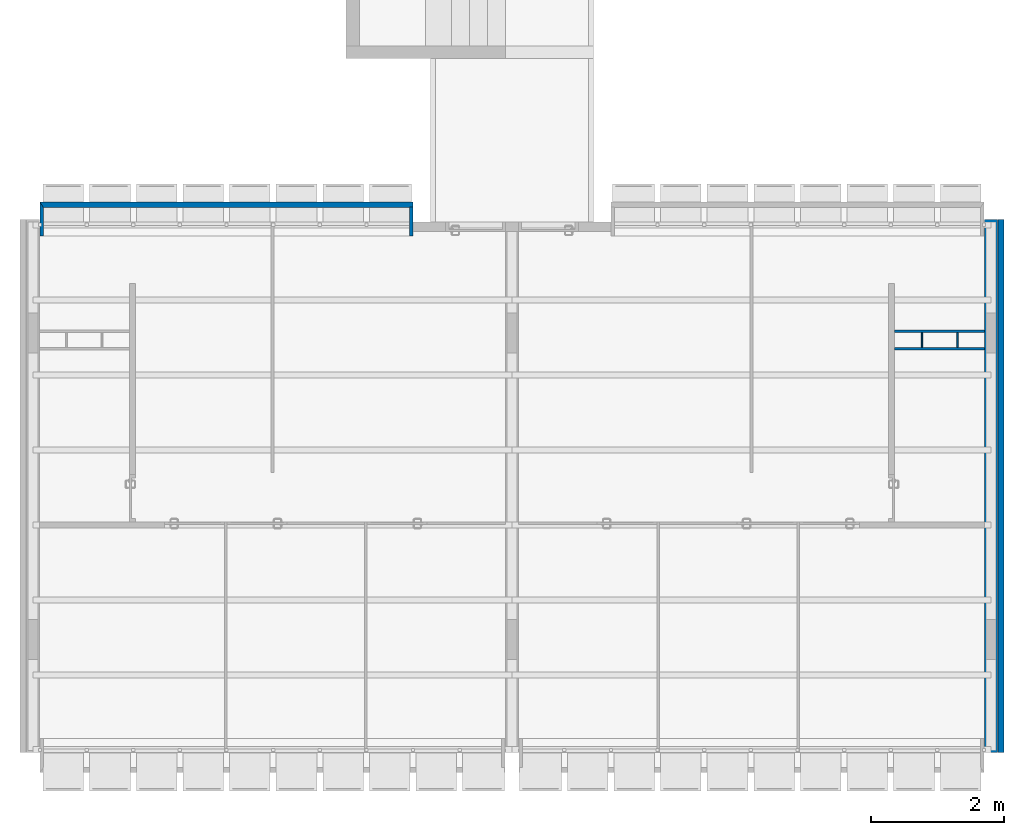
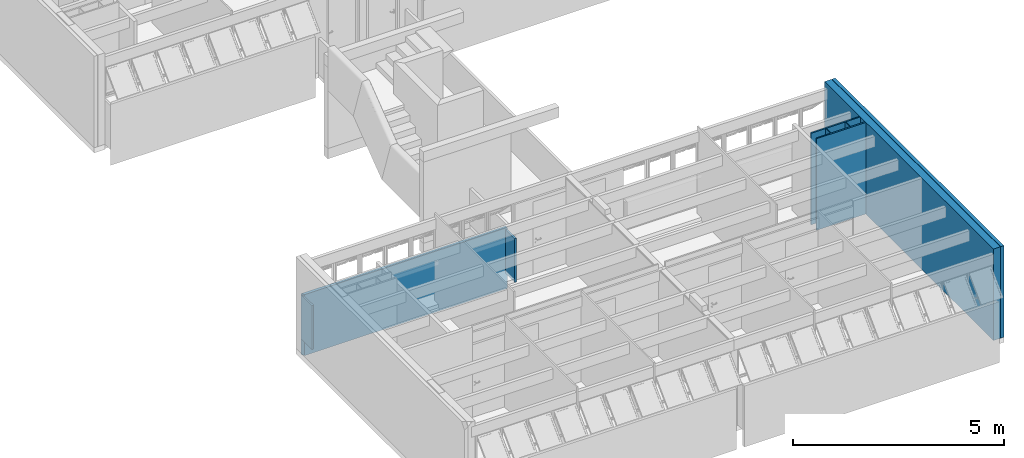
# One storey, part 26 of 40: 9 walls.
"""IFC4 building model written with IfcOpenShell, lengths in millimetres."""

import ifcopenshell
import ifcopenshell.guid

model = None  # the IFC model being written
_history = None  # IfcOwnerHistory: only IFC2X3 demands one
_inside = {}  # id of a spatial element -> (the spatial element, [elements in it])
_under = {}  # id of a project, library or spatial element -> (it, [spatial elements below it])
_declared = {}  # id of a project -> (the project, [libraries it declares])
_typed = {}  # id of a type object -> (the type object, [elements of that type])
_made_of = {}  # id of a material, layer set ... -> (it, [elements and type objects made of it])


def new_model(schema):
    """Start an empty IFC model of exactly this schema.

    Asked for "IFC4X3", IfcOpenShell would pick the latest addendum, in which some entities
    have other attributes; the version numbers below select the first issue.
    IFC2X3 requires an IfcOwnerHistory on every rooted entity: one is made here for all.
    """
    global model, _history
    if schema == "IFC4X3":
        model = ifcopenshell.file(schema_version=(4, 3, 0, 0))
    else:
        model = ifcopenshell.file(schema=schema)
    _inside.clear()
    _under.clear()
    _declared.clear()
    _typed.clear()
    _made_of.clear()
    _history = None
    if model.schema == "IFC2X3":
        org = make("IfcOrganization", Name="unknown")
        user = make(
            "IfcPersonAndOrganization",
            ThePerson=make("IfcPerson", FamilyName="unknown"),
            TheOrganization=org,
        )
        app = make(
            "IfcApplication",
            ApplicationDeveloper=org,
            Version="unknown",
            ApplicationFullName="unknown",
            ApplicationIdentifier="unknown",
        )
        _history = make(
            "IfcOwnerHistory",
            OwningUser=user,
            OwningApplication=app,
            ChangeAction="ADDED",
            CreationDate=0,
        )
    return model


def make(cls, **values):
    """One entity of the class cls with the attributes given. An attribute that is None is left unset."""
    return model.create_entity(
        cls, **{name: value for name, value in values.items() if value is not None}
    )


def entity(cls, *values):
    """Any entity or typed value of the class cls, its attributes in the order of the schema. None: left unset."""
    e = model.create_entity(cls)
    for i, value in enumerate(values):
        if value is not None:
            e[i] = value
    return e


def rooted(cls, **values):
    """An entity with a GlobalId (a new one), such as an element, a storey or a relation."""
    return make(cls, GlobalId=ifcopenshell.guid.new(), OwnerHistory=_history, **values)


def si_unit(unit_type, name, prefix=None):
    """IfcSIUnit, for example si_unit("LENGTHUNIT", "METRE", prefix="MILLI")."""
    return make("IfcSIUnit", UnitType=unit_type, Prefix=prefix, Name=name)


def converted_unit(unit_type, name, factor, base, dimensions=None, offset=None):
    """IfcConversionBasedUnit, such as the inch: factor (a typed value) times the base unit."""
    return make(
        "IfcConversionBasedUnit"
        if offset is None
        else "IfcConversionBasedUnitWithOffset",
        ConversionOffset=offset,
        Dimensions=None
        if dimensions is None
        else entity("IfcDimensionalExponents", *dimensions),
        UnitType=unit_type,
        Name=name,
        ConversionFactor=make(
            "IfcMeasureWithUnit", ValueComponent=factor, UnitComponent=base
        ),
    )


def derived_unit(unit_type, elements):
    """IfcDerivedUnit: a product of units, each with its exponent."""
    return make(
        "IfcDerivedUnit",
        Elements=[
            make("IfcDerivedUnitElement", Unit=unit, Exponent=power)
            for unit, power in elements
        ],
        UnitType=unit_type,
    )


def assignment(units):
    """IfcUnitAssignment: the units of a project."""
    return None if units is None else make("IfcUnitAssignment", Units=units)


def point(xyz):
    """IfcCartesianPoint."""
    return None if xyz is None else make("IfcCartesianPoint", Coordinates=xyz)


def direction(xyz):
    """IfcDirection."""
    return None if xyz is None else make("IfcDirection", DirectionRatios=xyz)


def frame(location, z_axis=None, x_axis=None):
    """IfcAxis2Placement3D, a coordinate frame: its origin and axes. An axis left out is left unset."""
    return make(
        "IfcAxis2Placement3D",
        Location=point(location),
        Axis=direction(z_axis),
        RefDirection=direction(x_axis),
    )


def origin_with_axes():
    """The frame at (0, 0, 0) with the z axis (0, 0, 1) and the x axis (1, 0, 0) written out."""
    return frame((0.0, 0.0, 0.0), z_axis=(0.0, 0.0, 1.0), x_axis=(1.0, 0.0, 0.0))


def place(relative_to, where):
    """IfcLocalPlacement: puts the frame where relative to a parent placement (None: the world)."""
    return make(
        "IfcLocalPlacement", PlacementRelTo=relative_to, RelativePlacement=where
    )


def context(
    kind, dimensions, precision=None, world=None, true_north=None, identifier=None
):
    """IfcGeometricRepresentationContext, for example the 3D "Model" context."""
    return make(
        "IfcGeometricRepresentationContext",
        ContextIdentifier=identifier,
        ContextType=kind,
        CoordinateSpaceDimension=dimensions,
        Precision=precision,
        WorldCoordinateSystem=world,
        TrueNorth=true_north,
    )


def subcontext(parent, identifier, kind, view, scale=None):
    """IfcGeometricRepresentationSubContext, for example "Body" below "Model"."""
    return make(
        "IfcGeometricRepresentationSubContext",
        ContextIdentifier=identifier,
        ContextType=kind,
        ParentContext=parent,
        TargetScale=scale,
        TargetView=view,
    )


def project(units=None, contexts=None):
    """IfcProject with its units and contexts."""
    return rooted(
        "IfcProject",
        Name="project",
        RepresentationContexts=contexts,
        UnitsInContext=assignment(units),
    )


def spatial(cls, under=None, at=None, **own):
    """A site, building, storey or space (cls), placed at a placement, below another one or the project."""
    s = rooted(cls, ObjectPlacement=at, **own)
    if under is not None:
        _under.setdefault(under.id(), (under, []))[1].append(s)
    return s


def point_list(points):
    """IfcCartesianPointList2D or 3D."""
    cls = (
        "IfcCartesianPointList2D" if len(points[0]) == 2 else "IfcCartesianPointList3D"
    )
    return make(cls, CoordList=points)


def line(*indices):
    """IfcLineIndex: a straight run through numbered points of an indexed curve."""
    return model.create_entity("IfcLineIndex", indices)


def indexed_curve(points, segments=None, self_intersect=None):
    """IfcIndexedPolyCurve: lines and arcs through numbered points (the first is 1)."""
    return make(
        "IfcIndexedPolyCurve",
        Points=point_list(points),
        Segments=segments,
        SelfIntersect=self_intersect,
    )


def outline(outer, holes=None, kind="AREA"):
    """IfcArbitraryClosedProfileDef: a profile drawn as a closed curve; with holes, ...WithVoids."""
    if holes is None:
        return make("IfcArbitraryClosedProfileDef", ProfileType=kind, OuterCurve=outer)
    return make(
        "IfcArbitraryProfileDefWithVoids",
        ProfileType=kind,
        OuterCurve=outer,
        InnerCurves=holes,
    )


def extrude(swept, where, along, depth):
    """IfcExtrudedAreaSolid: the profile swept, set in the frame where, extruded along a direction by depth."""
    return make(
        "IfcExtrudedAreaSolid",
        SweptArea=swept,
        Position=where,
        ExtrudedDirection=direction(along),
        Depth=depth,
    )


def shape(context_of_items, identifier, shape_type, items):
    """IfcShapeRepresentation: the items that make up one representation, for example the "Body"."""
    return make(
        "IfcShapeRepresentation",
        ContextOfItems=context_of_items,
        RepresentationIdentifier=identifier,
        RepresentationType=shape_type,
        Items=items,
    )


def material(Name=None, Category=None):
    """IfcMaterial."""
    return make("IfcMaterial", Name=Name, Category=Category)


def layer(
    of_material, thickness, ventilated=None, Name=None, Category=None, Priority=None
):
    """IfcMaterialLayer: one layer of a wall or slab, of a material (None: an air gap)."""
    return make(
        "IfcMaterialLayer",
        Material=of_material,
        LayerThickness=thickness,
        IsVentilated=ventilated,
        Name=Name,
        Category=Category,
        Priority=Priority,
    )


def layer_set(layers, Name=None):
    """IfcMaterialLayerSet."""
    return make("IfcMaterialLayerSet", MaterialLayers=layers, LayerSetName=Name)


def layer_usage(for_layer_set, set_direction, sense, offset, extent=None):
    """IfcMaterialLayerSetUsage: how a layer set lies in its element."""
    return make(
        "IfcMaterialLayerSetUsage",
        ForLayerSet=for_layer_set,
        LayerSetDirection=set_direction,
        DirectionSense=sense,
        OffsetFromReferenceLine=offset,
        ReferenceExtent=extent,
    )


def made_of(thing, what):
    """Note that an element or type object is made of a material, layer set ...; save() writes the relation."""
    if what is not None:
        _made_of.setdefault(what.id(), (what, []))[1].append(thing)
    return thing


def type_object(cls, material=None, **own):
    """A type object (cls), such as IfcWallType, which elements share."""
    return made_of(rooted(cls, **own), material)


def element(
    cls,
    number,
    at=None,
    inside=None,
    cuts=None,
    type_object=None,
    material=None,
    context=None,
    identifier="Body",
    shape_type=None,
    held_by="IfcProductDefinitionShape",
    body=None,
    shapes=None,
    **own,
):
    """One element of the class cls, such as IfcWall. Its Tag is "e" and its number.

    at: its placement. inside: the storey or other place that contains it. cuts: it is an
    opening in that element (IfcRelVoidsElement). A single representation is given by context,
    identifier, shape_type and body (its items); several are given by shapes. held_by: the class
    of the entity that holds the representations. save() writes the other relations.
    """
    e = rooted(cls, Tag="e%d" % number, ObjectPlacement=at, **own)
    if body is not None:
        shapes = [shape(context, identifier, shape_type, body)]
    if shapes is not None:
        e.Representation = make(held_by, Representations=shapes)
    if inside is not None:
        _inside.setdefault(inside.id(), (inside, []))[1].append(e)
    if cuts is not None:
        rooted(
            "IfcRelVoidsElement", RelatingBuildingElement=cuts, RelatedOpeningElement=e
        )
    if type_object is not None:
        _typed.setdefault(type_object.id(), (type_object, []))[1].append(e)
    return made_of(e, material)


def aggregate(whole, parts):
    """IfcRelAggregates: a whole, such as a stair, and the parts it consists of."""
    return rooted("IfcRelAggregates", RelatingObject=whole, RelatedObjects=parts)


def save(model, path):
    """Write the relations noted so far, then the file.

    IfcRelAggregates (storeys below a building ...), IfcRelContainedInSpatialStructure (elements
    in a storey), IfcRelDefinesByType, IfcRelAssociatesMaterial and IfcRelDeclares: one each for
    every whole, place, type object, material and project.
    """
    for whole, parts in _under.values():
        aggregate(whole, parts)
    for where, things in _inside.values():
        rooted(
            "IfcRelContainedInSpatialStructure",
            RelatedElements=things,
            RelatingStructure=where,
        )
    for kind, things in _typed.values():
        rooted("IfcRelDefinesByType", RelatedObjects=things, RelatingType=kind)
    for what, things in _made_of.values():
        rooted("IfcRelAssociatesMaterial", RelatedObjects=things, RelatingMaterial=what)
    for by, libraries in _declared.values():
        rooted("IfcRelDeclares", RelatingContext=by, RelatedDefinitions=libraries)
    model.write(path)


model = new_model("IFC4")

# Units and contexts
model_context = context("Model", 3, precision=0.01, world=origin_with_axes(), true_north=direction((0.0, 1.0)))
body_context = subcontext(model_context, "Body", "Model", "MODEL_VIEW")
ifc_project = project(units=[si_unit("LENGTHUNIT", "METRE", prefix="MILLI"), si_unit("AREAUNIT", "SQUARE_METRE"), si_unit("VOLUMEUNIT", "CUBIC_METRE"), converted_unit("PLANEANGLEUNIT", "DEGREE", entity("IfcPlaneAngleMeasure", 0.0174532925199), si_unit("PLANEANGLEUNIT", "RADIAN"), dimensions=[0, 0, 0, 0, 0, 0, 0]), converted_unit("TIMEUNIT", "Year", entity("IfcTimeMeasure", 31556926.0), si_unit("TIMEUNIT", "SECOND"), dimensions=[0, 0, 1, 0, 0, 0, 0]), si_unit("MASSUNIT", "GRAM", prefix="KILO"), si_unit("THERMODYNAMICTEMPERATUREUNIT", "DEGREE_CELSIUS"), si_unit("LUMINOUSINTENSITYUNIT", "LUMEN"), si_unit("ENERGYUNIT", "JOULE", prefix="MEGA"), derived_unit("THERMALCONDUCTANCEUNIT", [(si_unit("POWERUNIT", "WATT"), 1), (si_unit("LENGTHUNIT", "METRE"), -1), (si_unit("THERMODYNAMICTEMPERATUREUNIT", "KELVIN"), -1)]), derived_unit("SPECIFICHEATCAPACITYUNIT", [(si_unit("ENERGYUNIT", "JOULE"), 1), (si_unit("MASSUNIT", "GRAM", prefix="KILO"), -1), (si_unit("THERMODYNAMICTEMPERATUREUNIT", "KELVIN"), -1)]), derived_unit("MASSDENSITYUNIT", [(si_unit("MASSUNIT", "GRAM", prefix="KILO"), 1), (si_unit("VOLUMEUNIT", "CUBIC_METRE"), -1)])], contexts=[model_context])

# Site, building, storey
site_placement = place(None, origin_with_axes())
site = spatial("IfcSite", under=ifc_project, at=site_placement, Name="Local", CompositionType="ELEMENT")
building_placement = place(site_placement, origin_with_axes())
building = spatial("IfcBuilding", under=site, at=building_placement, Name="Construção", CompositionType="ELEMENT")
storey_placement = place(building_placement, origin_with_axes())
storey = spatial("IfcBuildingStorey", under=building, at=storey_placement, Name="Primeiro Pavimento", CompositionType="ELEMENT", Elevation=0.0)

# Walls
ifc_material_1 = material(Name="GENÉRICO - VEDAÇÃO EXTERNA")
ifc_layer_1 = layer(ifc_material_1, 190.0, ventilated="UNKNOWN", Name="GENÉRICO - VEDAÇÃO EXTERNA")
ifc_layer_set_1 = layer_set([ifc_layer_1], Name="GENÉRICO - VEDAÇÃO EXTERNA 190")
ifc_layer_usage_1 = layer_usage(ifc_layer_set_1, "AXIS2", "POSITIVE", 0.0)
wall_type_1 = type_object("IfcWallType", Name="GENÉRICO - VEDAÇÃO EXTERNA 190", PredefinedType="NOTDEFINED")
wall_1_placement = place(storey_placement, frame((14480.0, 8300.0, 0.0), z_axis=(0.0, 0.0, 1.0), x_axis=(0.0, -1.0, 0.0)))
element("IfcWall", 1, at=wall_1_placement, inside=storey, type_object=wall_type_1, material=ifc_layer_usage_1, Name="APTO2-PAREDE-013", PredefinedType="NOTDEFINED", context=body_context, shape_type="SweptSolid", body=[
    extrude(outline(indexed_curve([(0.0, 0.0), (8000.0, 0.0), (8000.0, 190.0), (0.0, 190.0)], segments=[line(1, 2, 3, 4, 1)])), origin_with_axes(), (0.0, 0.0, 1.0), 2650.0),
])
ifc_layer_2 = layer(ifc_material_1, 40.0, ventilated="UNKNOWN", Name="GENÉRICO - VEDAÇÃO EXTERNA")
ifc_layer_set_2 = layer_set([ifc_layer_2], Name="GENÉRICO - VEDAÇÃO EXTERNA 40")
ifc_layer_usage_2 = layer_usage(ifc_layer_set_2, "AXIS2", "POSITIVE", -40.0)
wall_type_2 = type_object("IfcWallType", Name="GENÉRICO - VEDAÇÃO EXTERNA 40", PredefinedType="NOTDEFINED")
wall_2_placement = place(storey_placement, frame((14480.0, 6345.0, 0.0), z_axis=(0.0, 0.0, 1.0), x_axis=(-1.0, 0.0, 0.0)))
element("IfcWall", 2, at=wall_2_placement, inside=storey, type_object=wall_type_2, material=ifc_layer_usage_2, Name="APTO2-PAREDE-011", PredefinedType="NOTDEFINED", context=body_context, shape_type="SweptSolid", body=[
    extrude(outline(indexed_curve([(0.0, -40.0), (1350.0, -40.0), (1350.0, 0.0), (0.0, 0.0)], segments=[line(1, 2, 3, 4, 1)])), origin_with_axes(), (0.0, 0.0, 1.0), 2650.0),
])
ifc_layer_usage_3 = layer_usage(ifc_layer_set_2, "AXIS2", "POSITIVE", -40.0)
wall_3_placement = place(storey_placement, frame((13040.0, 6645.0, 0.0), z_axis=(0.0, 0.0, 1.0), x_axis=(1.0, 0.0, 0.0)))
element("IfcWall", 3, at=wall_3_placement, inside=storey, type_object=wall_type_2, material=ifc_layer_usage_3, Name="APTO2-PAREDE-010", PredefinedType="NOTDEFINED", context=body_context, shape_type="SweptSolid", body=[
    extrude(outline(indexed_curve([(90.0, -40.0), (1440.0, -40.0), (1440.0, 0.0), (90.0, 0.0)], segments=[line(1, 2, 3, 4, 1)])), origin_with_axes(), (0.0, 0.0, 1.0), 2650.0),
])
ifc_layer_3 = layer(ifc_material_1, 90.0, ventilated="UNKNOWN", Name="GENÉRICO - VEDAÇÃO EXTERNA")
ifc_layer_set_3 = layer_set([ifc_layer_3], Name="GENÉRICO - VEDAÇÃO EXTERNA 90")
ifc_layer_usage_4 = layer_usage(ifc_layer_set_3, "AXIS2", "POSITIVE", 0.0)
wall_type_3 = type_object("IfcWallType", Name="GENÉRICO - VEDAÇÃO EXTERNA 90", PredefinedType="NOTDEFINED")
wall_4_placement = place(storey_placement, frame((14680.0, 8300.0, 0.0), z_axis=(0.0, 0.0, 1.0), x_axis=(0.0, -1.0, 0.0)))
element("IfcWall", 4, at=wall_4_placement, inside=storey, type_object=wall_type_3, material=ifc_layer_usage_4, Name="APTO2-PAREDE-014", PredefinedType="NOTDEFINED", context=body_context, shape_type="SweptSolid", body=[
    extrude(outline(indexed_curve([(0.0, 0.0), (8000.0, 0.0), (8000.0, 90.0), (0.0, 90.0)], segments=[line(1, 2, 3, 4, 1)])), origin_with_axes(), (0.0, 0.0, 1.0), 2650.0),
])
ifc_material_2 = material(Name="Concreto Armado Moldado in Loco - Estrutural")
ifc_layer_4 = layer(ifc_material_2, 50.0, ventilated="UNKNOWN", Name="Concreto Armado Moldado in Loco - Estrutural")
ifc_layer_set_4 = layer_set([ifc_layer_4], Name="Concreto Armado Moldado in Loco - Estrutural 50")
ifc_layer_usage_5 = layer_usage(ifc_layer_set_4, "AXIS2", "POSITIVE", -50.0)
wall_type_4 = type_object("IfcWallType", Name="Concreto Armado Moldado in Loco - Estrutural 50", PredefinedType="NOTDEFINED")
wall_5_placement = place(storey_placement, frame((300.0, 8054.99999866, 0.0), z_axis=(0.0, 0.0, 1.0), x_axis=(0.0, 1.0, 0.0)))
element("IfcWall", 5, at=wall_5_placement, inside=storey, type_object=wall_type_4, material=ifc_layer_usage_5, Name="APTO1-PAREDE-018", PredefinedType="NOTDEFINED", context=body_context, shape_type="SweptSolid", body=[
    extrude(outline(indexed_curve([(0.0, -50.0), (430.0, -50.0), (510.0, 0.0), (0.0, 0.0)], segments=[line(1, 2, 3, 4, 1)])), origin_with_axes(), (0.0, 0.0, 1.0), 1270.0),
])
ifc_layer_usage_6 = layer_usage(ifc_layer_set_4, "AXIS2", "POSITIVE", -50.0)
wall_6_placement = place(storey_placement, frame((5850.0, 8054.99999866, 0.0), z_axis=(0.0, 0.0, 1.0), x_axis=(0.0, 1.0, 0.0)))
element("IfcWall", 6, at=wall_6_placement, inside=storey, type_object=wall_type_4, material=ifc_layer_usage_6, Name="APTO1-PAREDE-016", PredefinedType="NOTDEFINED", context=body_context, shape_type="SweptSolid", body=[
    extrude(outline(indexed_curve([(0.0, -50.0), (435.0, -50.0), (435.0, 0.0), (0.0, 0.0)], segments=[line(1, 2, 3, 4, 1)])), origin_with_axes(), (0.0, 0.0, 1.0), 1270.0),
])
ifc_layer_5 = layer(ifc_material_1, 20.0, ventilated="UNKNOWN", Name="GENÉRICO - VEDAÇÃO EXTERNA")
ifc_layer_set_5 = layer_set([ifc_layer_5], Name="GENÉRICO - VEDAÇÃO EXTERNA 20")
ifc_layer_usage_7 = layer_usage(ifc_layer_set_5, "AXIS2", "POSITIVE", -20.0)
wall_type_5 = type_object("IfcWallType", Name="GENÉRICO - VEDAÇÃO EXTERNA 20", PredefinedType="NOTDEFINED")
wall_7_placement = place(storey_placement, frame((14060.0, 6345.0, 0.0), z_axis=(0.0, 0.0, 1.0), x_axis=(0.0, 1.0, 0.0)))
element("IfcWall", 7, at=wall_7_placement, inside=storey, type_object=wall_type_5, material=ifc_layer_usage_7, Name="APTO2-PAREDE-009", PredefinedType="NOTDEFINED", context=body_context, shape_type="SweptSolid", body=[
    extrude(outline(indexed_curve([(40.0, -20.0), (260.0, -20.0), (260.0, 0.0), (40.0, 0.0)], segments=[line(1, 2, 3, 4, 1)])), origin_with_axes(), (0.0, 0.0, 1.0), 2650.0),
])
ifc_layer_usage_8 = layer_usage(ifc_layer_set_5, "AXIS2", "POSITIVE", 0.0)
wall_8_placement = place(storey_placement, frame((13530.0, 6645.0, 0.0), z_axis=(0.0, 0.0, 1.0), x_axis=(0.0, -1.0, 0.0)))
element("IfcWall", 8, at=wall_8_placement, inside=storey, type_object=wall_type_5, material=ifc_layer_usage_8, Name="APTO2-PAREDE-008", PredefinedType="NOTDEFINED", context=body_context, shape_type="SweptSolid", body=[
    extrude(outline(indexed_curve([(40.0, 0.0), (260.0, 0.0), (260.0, 20.0), (40.0, 20.0)], segments=[line(1, 2, 3, 4, 1)])), origin_with_axes(), (0.0, 0.0, 1.0), 2650.0),
])
ifc_layer_6 = layer(ifc_material_2, 80.0, ventilated="UNKNOWN", Name="Concreto Armado Moldado in Loco - Estrutural")
ifc_layer_set_6 = layer_set([ifc_layer_6], Name="Concreto Armado Moldado in Loco - Estrutural 80")
ifc_layer_usage_9 = layer_usage(ifc_layer_set_6, "AXIS2", "NEGATIVE", 80.0)
wall_type_6 = type_object("IfcWallType", Name="Concreto Armado Moldado in Loco - Estrutural 80", PredefinedType="NOTDEFINED")
wall_9_placement = place(storey_placement, frame((300.0, 8484.99999866, -450.0), z_axis=(0.0, 0.0, 1.0), x_axis=(1.0, 0.0, 0.0)))
element("IfcWall", 9, at=wall_9_placement, inside=storey, type_object=wall_type_6, material=ifc_layer_usage_9, Name="APTO1-PAREDE-017", PredefinedType="NOTDEFINED", context=body_context, shape_type="SweptSolid", body=[
    extrude(outline(indexed_curve([(50.0, 0.0), (5600.0, 0.0), (5600.0, 80.0), (0.0, 80.0)], segments=[line(1, 2, 3, 4, 1)])), origin_with_axes(), (0.0, 0.0, 1.0), 1765.0),
])

save(model, "model.ifc")
